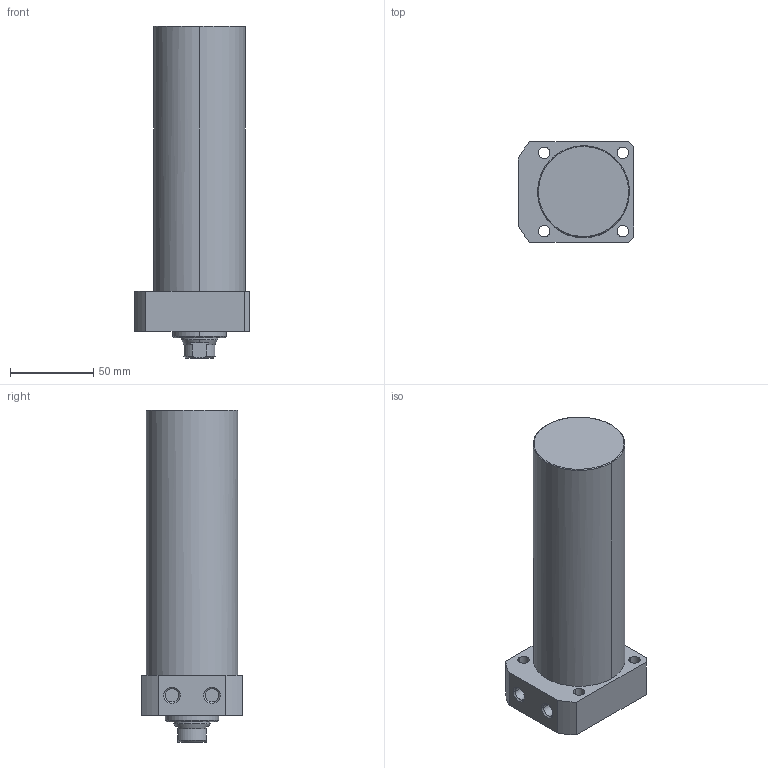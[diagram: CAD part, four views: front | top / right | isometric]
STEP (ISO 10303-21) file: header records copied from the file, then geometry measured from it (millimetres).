
FILE_DESCRIPTION((' '),'2;1');
FILE_NAME( 'TLLR-055CA-130.STEP.stp', '2025-10-24T16:34:43', (' '), ('--- Datakit www.datakit.com---'), ' Datakit CrossCadWare V2024.1 Dec 21 2023', 'Mastercam 2025', ' ');
FILE_SCHEMA(('AUTOMOTIVE_DESIGN { 1 0 10303 214 1 1 1 1 }'));
Length unit declared in the file: millimetre
Products named in the file (1): TLLR-055CA-130
Bounding box: 69 x 60 x 199 mm (x, y, z)
Volume: 475384.4 mm3; surface area: 45760.2 mm2
Topology: 1 solids, 1 shells, 63 faces, 177 edges, 122 vertices
Faces by surface type: cylinder 28, plane 19, cone 14, torus 2
Entity records: 2164 total; most frequent: CARTESIAN_POINT 401, DIRECTION 400, ORIENTED_EDGE 350, EDGE_CURVE 175, AXIS2_PLACEMENT_3D 169, VERTEX_POINT 122, CIRCLE 105, EDGE_LOOP 79
